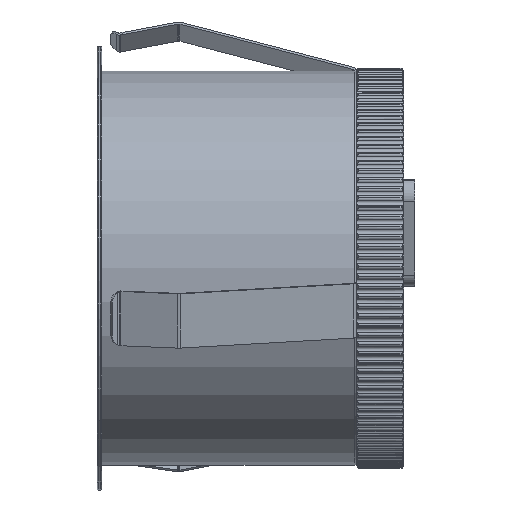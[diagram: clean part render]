
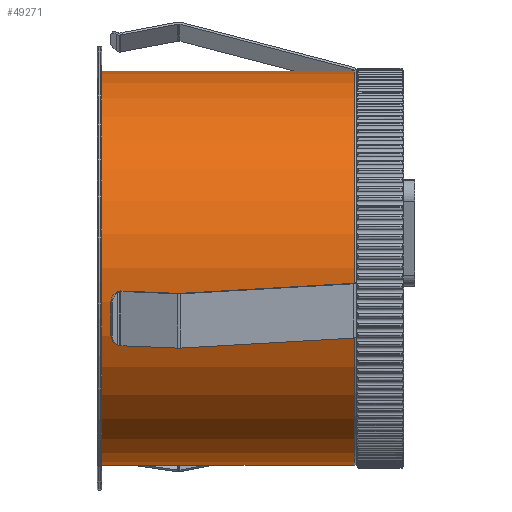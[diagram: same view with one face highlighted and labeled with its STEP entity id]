
A CAD part, left-side view. The second image highlights one B-rep face of the part: STEP entity #49271.
In plain terms, the highlighted cylindrical face has radius 35.5 mm (diameter 71 mm), a partial arc.
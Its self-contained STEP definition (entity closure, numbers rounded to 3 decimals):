
#104 = VERTEX_POINT ( 'NONE', #1135 ) ;
#1135 = CARTESIAN_POINT ( 'NONE',  ( 0., 0., -35.5 ) ) ;
#1838 = EDGE_CURVE ( 'NONE', #5654, #55330, #24202, .T. ) ;
#5026 = CARTESIAN_POINT ( 'NONE',  ( 0., 79.536, -35.5 ) ) ;
#5654 = VERTEX_POINT ( 'NONE', #15892 ) ;
#6355 = CARTESIAN_POINT ( 'NONE',  ( 0., 79.536, 35.5 ) ) ;
#8447 = EDGE_CURVE ( 'NONE', #104, #16535, #31402, .T. ) ;
#8470 = EDGE_LOOP ( 'NONE', ( #44268, #24562, #21102, #29461 ) ) ;
#8636 = CARTESIAN_POINT ( 'NONE',  ( 0., 45.5, 35.5 ) ) ;
#10897 = CYLINDRICAL_SURFACE ( 'NONE', #31466, 35.5 ) ;
#10948 = VECTOR ( 'NONE', #29492, 1000. ) ;
#15892 = CARTESIAN_POINT ( 'NONE',  ( 0., 45.5, -35.5 ) ) ;
#16535 = VERTEX_POINT ( 'NONE', #17810 ) ;
#17810 = CARTESIAN_POINT ( 'NONE',  ( 0., 0., 35.5 ) ) ;
#20081 = CARTESIAN_POINT ( 'NONE',  ( 0., 79.536, 0. ) ) ;
#20752 = CARTESIAN_POINT ( 'NONE',  ( 0., 45.5, 0. ) ) ;
#21102 = ORIENTED_EDGE ( 'NONE', *, *, #27361, .T. ) ;
#21346 = DIRECTION ( 'NONE',  ( 0., 0., 1. ) ) ;
#24202 = CIRCLE ( 'NONE', #44147, 35.5 ) ;
#24235 = FACE_OUTER_BOUND ( 'NONE', #8470, .T. ) ;
#24293 = DIRECTION ( 'NONE',  ( 0., 1., 0. ) ) ;
#24562 = ORIENTED_EDGE ( 'NONE', *, *, #8447, .T. ) ;
#25682 = AXIS2_PLACEMENT_3D ( 'NONE', #29269, #33725, #28685 ) ;
#27361 = EDGE_CURVE ( 'NONE', #16535, #55330, #29794, .T. ) ;
#28685 = DIRECTION ( 'NONE',  ( 0., 0., 1. ) ) ;
#29269 = CARTESIAN_POINT ( 'NONE',  ( 0., 0., 0. ) ) ;
#29461 = ORIENTED_EDGE ( 'NONE', *, *, #1838, .F. ) ;
#29492 = DIRECTION ( 'NONE',  ( 0., 1., 0. ) ) ;
#29794 = LINE ( 'NONE', #6355, #10948 ) ;
#29864 = DIRECTION ( 'NONE',  ( 0., 1., 0. ) ) ;
#30253 = DIRECTION ( 'NONE',  ( 0., 1., 0. ) ) ;
#31402 = CIRCLE ( 'NONE', #25682, 35.5 ) ;
#31466 = AXIS2_PLACEMENT_3D ( 'NONE', #20081, #29864, #42353 ) ;
#33725 = DIRECTION ( 'NONE',  ( 0., 1., 0. ) ) ;
#36265 = EDGE_CURVE ( 'NONE', #104, #5654, #50439, .T. ) ;
#42353 = DIRECTION ( 'NONE',  ( 0., 0., 1. ) ) ;
#44147 = AXIS2_PLACEMENT_3D ( 'NONE', #20752, #30253, #21346 ) ;
#44268 = ORIENTED_EDGE ( 'NONE', *, *, #36265, .F. ) ;
#49271 = ADVANCED_FACE ( 'NONE', ( #24235 ), #10897, .T. ) ;
#50439 = LINE ( 'NONE', #5026, #56804 ) ;
#55330 = VERTEX_POINT ( 'NONE', #8636 ) ;
#56804 = VECTOR ( 'NONE', #24293, 1000. ) ;
